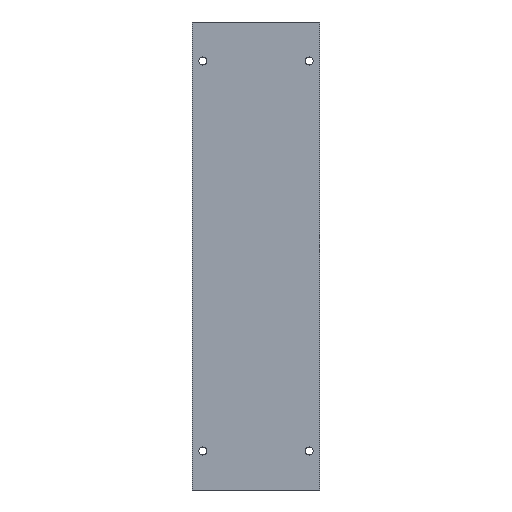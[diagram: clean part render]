
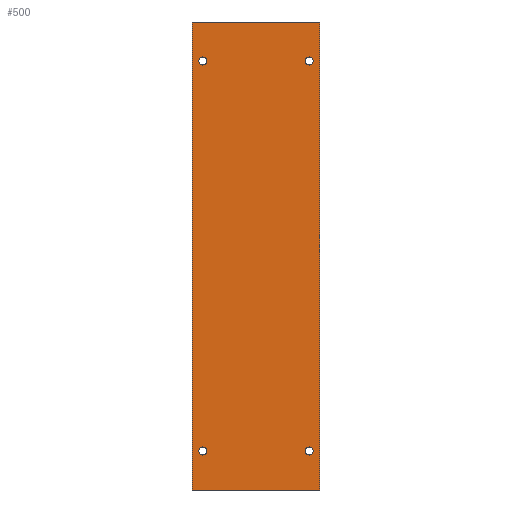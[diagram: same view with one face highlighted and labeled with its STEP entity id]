
A CAD part, front view. The second image highlights one B-rep face of the part: STEP entity #500.
In plain terms, the highlighted planar face has unit normal (0, -1, 0).
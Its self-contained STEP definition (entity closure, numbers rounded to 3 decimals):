
#1 = LINE ( 'NONE', #596, #122 ) ;
#8 = VERTEX_POINT ( 'NONE', #470 ) ;
#12 = CARTESIAN_POINT ( 'NONE',  ( -45., 0., 165. ) ) ;
#23 = DIRECTION ( 'NONE',  ( 0., 0., -1. ) ) ;
#25 = CARTESIAN_POINT ( 'NONE',  ( 54., 0., -198. ) ) ;
#26 = AXIS2_PLACEMENT_3D ( 'NONE', #509, #130, #227 ) ;
#33 = CARTESIAN_POINT ( 'NONE',  ( -45., 0., -161.6 ) ) ;
#34 = CIRCLE ( 'NONE', #181, 3.4 ) ;
#44 = CARTESIAN_POINT ( 'NONE',  ( 45., 0., -165. ) ) ;
#49 = FACE_BOUND ( 'NONE', #200, .T. ) ;
#52 = EDGE_CURVE ( 'NONE', #382, #203, #106, .T. ) ;
#61 = CIRCLE ( 'NONE', #293, 3.4 ) ;
#65 = VERTEX_POINT ( 'NONE', #422 ) ;
#73 = CARTESIAN_POINT ( 'NONE',  ( -54., 0., -198. ) ) ;
#75 = PLANE ( 'NONE',  #26 ) ;
#79 = CARTESIAN_POINT ( 'NONE',  ( 45., 0., -165. ) ) ;
#82 = CIRCLE ( 'NONE', #366, 3.4 ) ;
#83 = DIRECTION ( 'NONE',  ( 0., 1., 0. ) ) ;
#85 = EDGE_CURVE ( 'NONE', #111, #8, #404, .T. ) ;
#91 = DIRECTION ( 'NONE',  ( 0., 0., 1. ) ) ;
#96 = LINE ( 'NONE', #179, #290 ) ;
#106 = CIRCLE ( 'NONE', #374, 3.4 ) ;
#107 = EDGE_CURVE ( 'NONE', #65, #602, #61, .T. ) ;
#111 = VERTEX_POINT ( 'NONE', #474 ) ;
#113 = CIRCLE ( 'NONE', #124, 3.4 ) ;
#116 = CARTESIAN_POINT ( 'NONE',  ( 45., 0., 161.6 ) ) ;
#119 = EDGE_CURVE ( 'NONE', #255, #538, #302, .T. ) ;
#120 = ORIENTED_EDGE ( 'NONE', *, *, #506, .F. ) ;
#122 = VECTOR ( 'NONE', #594, 1000. ) ;
#124 = AXIS2_PLACEMENT_3D ( 'NONE', #379, #83, #515 ) ;
#130 = DIRECTION ( 'NONE',  ( 0., -1., 0. ) ) ;
#176 = DIRECTION ( 'NONE',  ( 0., 1., 0. ) ) ;
#179 = CARTESIAN_POINT ( 'NONE',  ( 54., 0., 198. ) ) ;
#181 = AXIS2_PLACEMENT_3D ( 'NONE', #79, #176, #311 ) ;
#184 = FACE_BOUND ( 'NONE', #539, .T. ) ;
#192 = LINE ( 'NONE', #510, #295 ) ;
#196 = DIRECTION ( 'NONE',  ( 0., 1., 0. ) ) ;
#197 = DIRECTION ( 'NONE',  ( 0., 0., 1. ) ) ;
#200 = EDGE_LOOP ( 'NONE', ( #581, #324 ) ) ;
#203 = VERTEX_POINT ( 'NONE', #574 ) ;
#206 = EDGE_LOOP ( 'NONE', ( #364, #550 ) ) ;
#227 = DIRECTION ( 'NONE',  ( 0., 0., -1. ) ) ;
#235 = DIRECTION ( 'NONE',  ( 0., 0., 1. ) ) ;
#244 = CARTESIAN_POINT ( 'NONE',  ( 45., 0., 165. ) ) ;
#249 = VECTOR ( 'NONE', #458, 1000. ) ;
#250 = DIRECTION ( 'NONE',  ( 0., 1., 0. ) ) ;
#255 = VERTEX_POINT ( 'NONE', #536 ) ;
#259 = ORIENTED_EDGE ( 'NONE', *, *, #119, .T. ) ;
#265 = CIRCLE ( 'NONE', #545, 3.4 ) ;
#269 = CARTESIAN_POINT ( 'NONE',  ( 45., 0., 165. ) ) ;
#283 = CARTESIAN_POINT ( 'NONE',  ( 45., 0., -161.6 ) ) ;
#284 = ORIENTED_EDGE ( 'NONE', *, *, #52, .T. ) ;
#290 = VECTOR ( 'NONE', #23, 1000. ) ;
#293 = AXIS2_PLACEMENT_3D ( 'NONE', #388, #340, #91 ) ;
#295 = VECTOR ( 'NONE', #235, 1000. ) ;
#302 = CIRCLE ( 'NONE', #520, 3.4 ) ;
#311 = DIRECTION ( 'NONE',  ( 0., 0., 1. ) ) ;
#324 = ORIENTED_EDGE ( 'NONE', *, *, #381, .T. ) ;
#325 = CARTESIAN_POINT ( 'NONE',  ( 54., 0., 198. ) ) ;
#338 = CARTESIAN_POINT ( 'NONE',  ( -45., 0., 165. ) ) ;
#340 = DIRECTION ( 'NONE',  ( 0., 1., 0. ) ) ;
#349 = ORIENTED_EDGE ( 'NONE', *, *, #524, .F. ) ;
#354 = DIRECTION ( 'NONE',  ( 0., 1., 0. ) ) ;
#358 = ORIENTED_EDGE ( 'NONE', *, *, #425, .T. ) ;
#364 = ORIENTED_EDGE ( 'NONE', *, *, #554, .T. ) ;
#366 = AXIS2_PLACEMENT_3D ( 'NONE', #12, #354, #447 ) ;
#374 = AXIS2_PLACEMENT_3D ( 'NONE', #244, #250, #430 ) ;
#376 = LINE ( 'NONE', #552, #249 ) ;
#378 = EDGE_LOOP ( 'NONE', ( #120, #555, #349, #477 ) ) ;
#379 = CARTESIAN_POINT ( 'NONE',  ( -45., 0., -165. ) ) ;
#381 = EDGE_CURVE ( 'NONE', #8, #111, #82, .T. ) ;
#382 = VERTEX_POINT ( 'NONE', #116 ) ;
#386 = FACE_BOUND ( 'NONE', #206, .T. ) ;
#388 = CARTESIAN_POINT ( 'NONE',  ( -45., 0., -165. ) ) ;
#389 = EDGE_CURVE ( 'NONE', #407, #473, #376, .T. ) ;
#404 = CIRCLE ( 'NONE', #616, 3.4 ) ;
#406 = DIRECTION ( 'NONE',  ( 0., 1., 0. ) ) ;
#407 = VERTEX_POINT ( 'NONE', #25 ) ;
#422 = CARTESIAN_POINT ( 'NONE',  ( -45., 0., -168.4 ) ) ;
#425 = EDGE_CURVE ( 'NONE', #538, #255, #34, .T. ) ;
#430 = DIRECTION ( 'NONE',  ( 0., 0., 1. ) ) ;
#439 = EDGE_CURVE ( 'NONE', #203, #382, #265, .T. ) ;
#447 = DIRECTION ( 'NONE',  ( 0., 0., 1. ) ) ;
#453 = EDGE_CURVE ( 'NONE', #508, #584, #1, .T. ) ;
#456 = CARTESIAN_POINT ( 'NONE',  ( -54., 0., 198. ) ) ;
#458 = DIRECTION ( 'NONE',  ( -1., 0., 0. ) ) ;
#459 = EDGE_LOOP ( 'NONE', ( #358, #259 ) ) ;
#470 = CARTESIAN_POINT ( 'NONE',  ( -45., 0., 161.6 ) ) ;
#473 = VERTEX_POINT ( 'NONE', #73 ) ;
#474 = CARTESIAN_POINT ( 'NONE',  ( -45., 0., 168.4 ) ) ;
#477 = ORIENTED_EDGE ( 'NONE', *, *, #389, .F. ) ;
#500 = ADVANCED_FACE ( 'NONE', ( #49, #184, #518, #386, #556 ), #75, .T. ) ;
#506 = EDGE_CURVE ( 'NONE', #584, #407, #96, .T. ) ;
#508 = VERTEX_POINT ( 'NONE', #456 ) ;
#509 = CARTESIAN_POINT ( 'NONE',  ( 0., 0., 0. ) ) ;
#510 = CARTESIAN_POINT ( 'NONE',  ( -54., 0., 198. ) ) ;
#515 = DIRECTION ( 'NONE',  ( 0., 0., 1. ) ) ;
#518 = FACE_BOUND ( 'NONE', #459, .T. ) ;
#520 = AXIS2_PLACEMENT_3D ( 'NONE', #44, #196, #197 ) ;
#524 = EDGE_CURVE ( 'NONE', #473, #508, #192, .T. ) ;
#536 = CARTESIAN_POINT ( 'NONE',  ( 45., 0., -168.4 ) ) ;
#538 = VERTEX_POINT ( 'NONE', #283 ) ;
#539 = EDGE_LOOP ( 'NONE', ( #590, #284 ) ) ;
#545 = AXIS2_PLACEMENT_3D ( 'NONE', #269, #406, #591 ) ;
#550 = ORIENTED_EDGE ( 'NONE', *, *, #107, .T. ) ;
#552 = CARTESIAN_POINT ( 'NONE',  ( -54., 0., -198. ) ) ;
#554 = EDGE_CURVE ( 'NONE', #602, #65, #113, .T. ) ;
#555 = ORIENTED_EDGE ( 'NONE', *, *, #453, .F. ) ;
#556 = FACE_OUTER_BOUND ( 'NONE', #378, .T. ) ;
#574 = CARTESIAN_POINT ( 'NONE',  ( 45., 0., 168.4 ) ) ;
#581 = ORIENTED_EDGE ( 'NONE', *, *, #85, .T. ) ;
#584 = VERTEX_POINT ( 'NONE', #325 ) ;
#590 = ORIENTED_EDGE ( 'NONE', *, *, #439, .T. ) ;
#591 = DIRECTION ( 'NONE',  ( 0., 0., 1. ) ) ;
#594 = DIRECTION ( 'NONE',  ( 1., 0., 0. ) ) ;
#596 = CARTESIAN_POINT ( 'NONE',  ( -54., 0., 198. ) ) ;
#602 = VERTEX_POINT ( 'NONE', #33 ) ;
#610 = DIRECTION ( 'NONE',  ( 0., 1., 0. ) ) ;
#614 = DIRECTION ( 'NONE',  ( 0., 0., 1. ) ) ;
#616 = AXIS2_PLACEMENT_3D ( 'NONE', #338, #610, #614 ) ;
